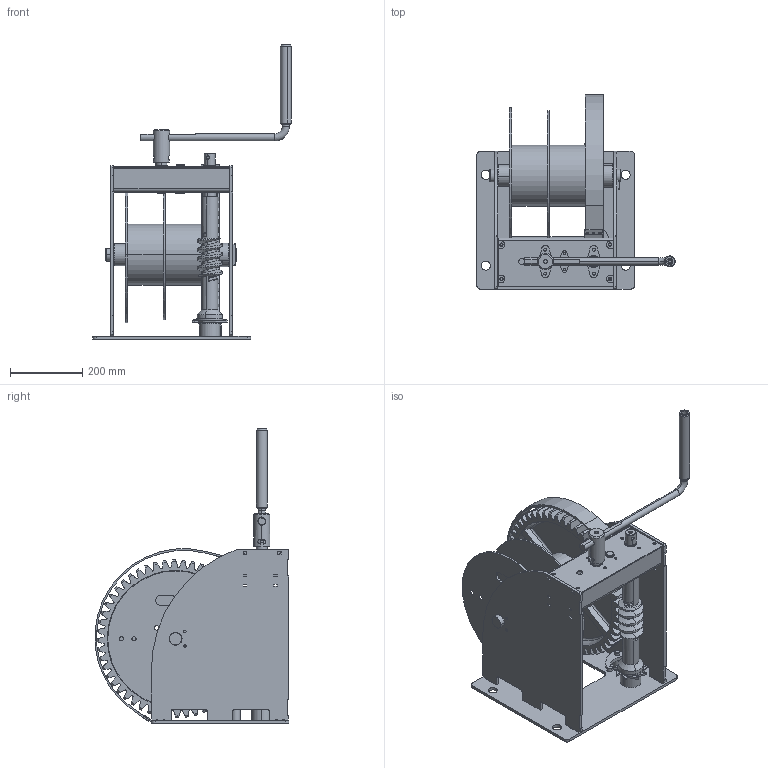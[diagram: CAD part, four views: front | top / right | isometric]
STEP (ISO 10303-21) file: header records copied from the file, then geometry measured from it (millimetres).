
FILE_DESCRIPTION (( 'STEP AP203' ), '1' );
FILE_NAME ('SL9031 WW3000 2D.STEP', '2015-09-16T09:04:02', ( '.' ), ( '.' ), 'SwSTEP 2.0', 'SolidWorks 2015', '' );
FILE_SCHEMA (( 'CONFIG_CONTROL_DESIGN' ));
Length unit declared in the file: millimetre
Products named in the file (43): spur gear_din_DIN - Spur gear 3M 34T 20PA 28FW ---S34A75H50L30.0R1; SL1442 Sam voorbrug_Zonder lagers; SL1276 Lager RS40_27-38-20; SL1436 zijplaat; SL0224_Trommelbuis; SL0369_Slingerarm; SL9031 WW3000 2D; SL1321 Flenslager GFL-20; SL1257 naaldlager AWX40; SL1441 achterbrug; SL0192_Meenemer; SL0370_Handvat; SL0206_Tandwiel m3z15; SL1256 lagerschijf AS4060; SL1341 bevestigingsplaat; SL0175_tussenflens_3000; SL0371_Sam slinger; SL1234_pal_WWgroot; SL1444 aandrijfas; SL1347 beschermkapplaat; SL0218_Sam trommel_2D; SL1320 Flenslager GFL-30; SL1334 remschijf; SL1445 tussenas; SL1275 Lagerrring AWX40_Met kraag; SL0823_glijlager_3520; SL1438 wormas; SL1339 borgplaat; SL1319 Flenslager GFL-25; SL1235_Palas_Met kraag; SL1233_palwiel_WW; SL0227_Wormwiel; SL1432 trommelas; SL0569_Tandwiel m3z20; SL1440 Sam huis; SL1258 Lagerbus; SL0196_Lagerring GL3520; SL0368_Slingerkop; SL1456 beschermkap; SL1443 voorbrug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
Assembly tree (51 placements, depth 3):
  SL9031 WW3000 2D
    SL1440 Sam huis
      SL1437 achterplaat
      SL1436 zijplaat  x2
      SL1441 achterbrug
      SL1341 bevestigingsplaat  x4
      SL1347 beschermkapplaat
      SL1275 Lagerrring AWX40_Met kraag
      SL1235_Palas_Met kraag
    SL1442 Sam voorbrug_Zonder lagers
      SL1443 voorbrug
      SL1347 beschermkapplaat
    SL1321 Flenslager GFL-20  x2
    SL0206_Tandwiel m3z15
    SL1234_pal_WWgroot
    SL1334 remschijf
    SL1339 borgplaat
    SL1432 trommelas
    SL0368_Slingerkop
    SL0371_Sam slinger
      SL0369_Slingerarm
      SL0370_Handvat
    SL1320 Flenslager GFL-30  x2
    SL1438 wormas
    SL0218_Sam trommel_2D
      SL0227_Wormwiel
      SL0196_Lagerring GL3520
      SL0225_Trommelflens
      SL0224_Trommelbuis
      SL0192_Meenemer  x3
      SL0175_tussenflens_3000
    SL0823_glijlager_3520
    SL1230 Sam palwiel
      SL1233_palwiel_WW
      SL1258 Lagerbus
    SL1276 Lager RS40_27-38-20
    SL1257 naaldlager AWX40
    SL1256 lagerschijf AS4060
    SL1444 aandrijfas
    SL1445 tussenas
    SL1319 Flenslager GFL-25
    SL0569_Tandwiel m3z20
    SL1456 beschermkap
    spur gear_din_DIN - Spur gear 3M 34T 20PA 28FW ---S34A75H50L30.0R1
Bounding box: 547.94 x 535.77 x 813 mm (x, y, z)
Volume: 11342037 mm3; surface area: 2801780.7 mm2
Topology: 46 solids, 46 shells, 1852 faces, 4993 edges, 3278 vertices
Faces by surface type: cylinder 965, plane 581, cone 251, bspline 36, torus 19
Entity records: 75852 total; most frequent: CARTESIAN_POINT 29115, DIRECTION 9106, ORIENTED_EDGE 8748, EDGE_CURVE 4374, AXIS2_PLACEMENT_3D 3602, VERTEX_POINT 2868, CIRCLE 1956, LINE 1902
